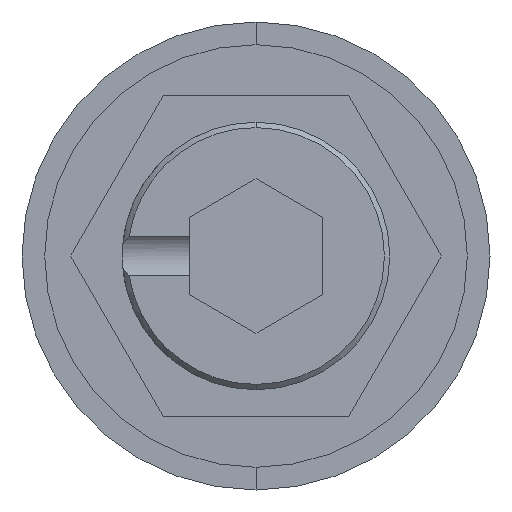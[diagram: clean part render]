
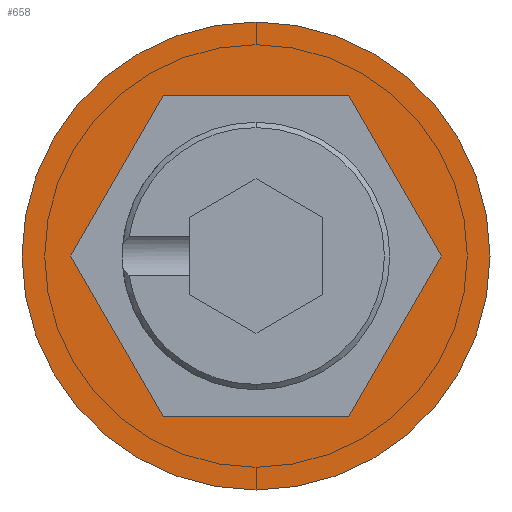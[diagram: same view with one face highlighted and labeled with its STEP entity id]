
A CAD part, front view. The second image highlights one B-rep face of the part: STEP entity #658.
In plain terms, the highlighted planar face has unit normal (0, -1, 0).
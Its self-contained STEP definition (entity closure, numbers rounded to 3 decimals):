
#6 = DIRECTION ( 'NONE',  ( 0.5, 0., 0.866 ) ) ;
#28 = VERTEX_POINT ( 'NONE', #755 ) ;
#34 = CARTESIAN_POINT ( 'NONE',  ( 0., 0., -8.75 ) ) ;
#46 = EDGE_CURVE ( 'NONE', #28, #1243, #1001, .T. ) ;
#56 = CARTESIAN_POINT ( 'NONE',  ( 0., 0., 0. ) ) ;
#129 = LINE ( 'NONE', #2027, #974 ) ;
#145 = CIRCLE ( 'NONE', #936, 8.75 ) ;
#151 = CARTESIAN_POINT ( 'NONE',  ( 0., 0., 0. ) ) ;
#174 = EDGE_LOOP ( 'NONE', ( #949, #682 ) ) ;
#208 = VECTOR ( 'NONE', #597, 1000. ) ;
#222 = DIRECTION ( 'NONE',  ( 0., 0., -1. ) ) ;
#261 = VERTEX_POINT ( 'NONE', #1003 ) ;
#286 = DIRECTION ( 'NONE',  ( -1., 0., 0. ) ) ;
#384 = LINE ( 'NONE', #568, #2008 ) ;
#396 = FACE_BOUND ( 'NONE', #1730, .T. ) ;
#435 = CARTESIAN_POINT ( 'NONE',  ( -3.464, 0., 6. ) ) ;
#488 = CIRCLE ( 'NONE', #1394, 8.75 ) ;
#530 = CARTESIAN_POINT ( 'NONE',  ( 0., 0., 0. ) ) ;
#535 = VERTEX_POINT ( 'NONE', #1969 ) ;
#568 = CARTESIAN_POINT ( 'NONE',  ( -3.464, 0., -6. ) ) ;
#597 = DIRECTION ( 'NONE',  ( -0.5, 0., -0.866 ) ) ;
#621 = LINE ( 'NONE', #1213, #1432 ) ;
#657 = DIRECTION ( 'NONE',  ( 0., 0., -1. ) ) ;
#658 = ADVANCED_FACE ( 'NONE', ( #396, #1789 ), #2185, .T. ) ;
#682 = ORIENTED_EDGE ( 'NONE', *, *, #1352, .T. ) ;
#692 = DIRECTION ( 'NONE',  ( 0., 0., -1. ) ) ;
#699 = LINE ( 'NONE', #435, #208 ) ;
#721 = VECTOR ( 'NONE', #286, 1000. ) ;
#747 = ORIENTED_EDGE ( 'NONE', *, *, #1457, .F. ) ;
#755 = CARTESIAN_POINT ( 'NONE',  ( -6.928, 0., 0. ) ) ;
#782 = EDGE_CURVE ( 'NONE', #261, #2100, #621, .T. ) ;
#893 = CARTESIAN_POINT ( 'NONE',  ( 3.464, 0., 6. ) ) ;
#936 = AXIS2_PLACEMENT_3D ( 'NONE', #56, #1245, #222 ) ;
#949 = ORIENTED_EDGE ( 'NONE', *, *, #1319, .T. ) ;
#954 = CARTESIAN_POINT ( 'NONE',  ( 3.464, 0., 6. ) ) ;
#974 = VECTOR ( 'NONE', #6, 1000. ) ;
#1001 = LINE ( 'NONE', #2103, #1464 ) ;
#1003 = CARTESIAN_POINT ( 'NONE',  ( 6.928, 0., 0. ) ) ;
#1010 = CARTESIAN_POINT ( 'NONE',  ( -3.464, 0., 6. ) ) ;
#1016 = ORIENTED_EDGE ( 'NONE', *, *, #1734, .F. ) ;
#1061 = EDGE_CURVE ( 'NONE', #1892, #28, #699, .T. ) ;
#1213 = CARTESIAN_POINT ( 'NONE',  ( 6.928, 0., 0. ) ) ;
#1236 = CARTESIAN_POINT ( 'NONE',  ( 0., 0., 8.75 ) ) ;
#1243 = VERTEX_POINT ( 'NONE', #2147 ) ;
#1245 = DIRECTION ( 'NONE',  ( 0., -1., 0. ) ) ;
#1282 = ORIENTED_EDGE ( 'NONE', *, *, #782, .F. ) ;
#1310 = VERTEX_POINT ( 'NONE', #1236 ) ;
#1319 = EDGE_CURVE ( 'NONE', #1367, #1310, #145, .T. ) ;
#1352 = EDGE_CURVE ( 'NONE', #1310, #1367, #488, .T. ) ;
#1367 = VERTEX_POINT ( 'NONE', #34 ) ;
#1394 = AXIS2_PLACEMENT_3D ( 'NONE', #530, #1712, #692 ) ;
#1419 = DIRECTION ( 'NONE',  ( 1., 0., 0. ) ) ;
#1432 = VECTOR ( 'NONE', #1549, 1000. ) ;
#1457 = EDGE_CURVE ( 'NONE', #1243, #535, #384, .T. ) ;
#1464 = VECTOR ( 'NONE', #1929, 1000. ) ;
#1535 = ORIENTED_EDGE ( 'NONE', *, *, #46, .F. ) ;
#1549 = DIRECTION ( 'NONE',  ( -0.5, 0., 0.866 ) ) ;
#1617 = ORIENTED_EDGE ( 'NONE', *, *, #1061, .F. ) ;
#1627 = LINE ( 'NONE', #954, #721 ) ;
#1674 = DIRECTION ( 'NONE',  ( 0., -1., 0. ) ) ;
#1712 = DIRECTION ( 'NONE',  ( 0., -1., 0. ) ) ;
#1730 = EDGE_LOOP ( 'NONE', ( #747, #1535, #1617, #1016, #1282, #1745 ) ) ;
#1734 = EDGE_CURVE ( 'NONE', #2100, #1892, #1627, .T. ) ;
#1745 = ORIENTED_EDGE ( 'NONE', *, *, #1906, .F. ) ;
#1789 = FACE_OUTER_BOUND ( 'NONE', #174, .T. ) ;
#1892 = VERTEX_POINT ( 'NONE', #1010 ) ;
#1906 = EDGE_CURVE ( 'NONE', #535, #261, #129, .T. ) ;
#1929 = DIRECTION ( 'NONE',  ( 0.5, 0., -0.866 ) ) ;
#1969 = CARTESIAN_POINT ( 'NONE',  ( 3.464, 0., -6. ) ) ;
#2008 = VECTOR ( 'NONE', #1419, 1000. ) ;
#2027 = CARTESIAN_POINT ( 'NONE',  ( 3.464, 0., -6. ) ) ;
#2100 = VERTEX_POINT ( 'NONE', #893 ) ;
#2103 = CARTESIAN_POINT ( 'NONE',  ( -6.928, 0., 0. ) ) ;
#2147 = CARTESIAN_POINT ( 'NONE',  ( -3.464, 0., -6. ) ) ;
#2157 = AXIS2_PLACEMENT_3D ( 'NONE', #151, #1674, #657 ) ;
#2185 = PLANE ( 'NONE',  #2157 ) ;
